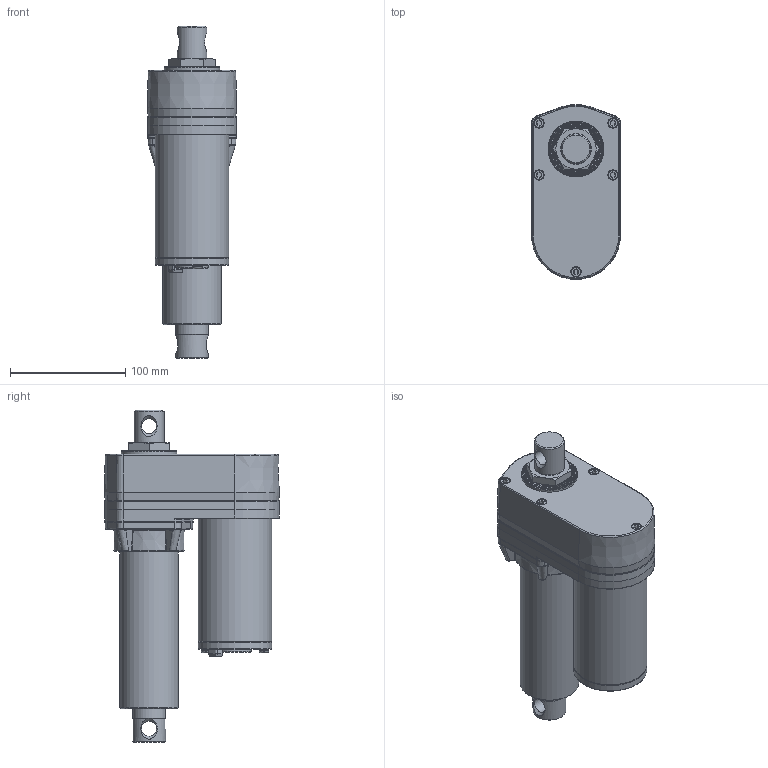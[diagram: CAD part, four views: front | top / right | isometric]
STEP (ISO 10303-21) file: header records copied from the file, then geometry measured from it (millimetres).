
FILE_DESCRIPTION (( 'STEP AP203' ), '1' );
FILE_NAME ('ID10II-A-Standard -102.STEP', '2014-06-09T08:35:23', ( '' ), ( '' ), 'SwSTEP 2.0', 'SolidWorks 2013', '' );
FILE_SCHEMA (( 'CONFIG_CONTROL_DESIGN' ));
Length unit declared in the file: millimetre
Products named in the file (3): ID10II-A-Standard -102-1; ID10II-A-Standard -102-2; ID10II-A-Standard -102
Assembly tree (2 placements, depth 2):
  ID10II-A-Standard -102
    ID10II-A-Standard -102-1
    ID10II-A-Standard -102-2
Bounding box: 77.15 x 151.65 x 287.8 mm (x, y, z)
Volume: 1373480.5 mm3; surface area: 131490.6 mm2
Topology: 2 solids, 2 shells, 824 faces, 2171 edges, 1375 vertices
Faces by surface type: plane 517, cylinder 135, bspline 92, torus 40, cone 40
Full cylindrical faces by diameter (mm): 8.5 x7, 9 x5, 13 x2, 26 x1, 28 x2, 28.1 x1, 28.6 x3, 48.2 x1, 50.8 x1, 63.2 x1, 63.5 x2
Entity records: 29221 total; most frequent: CARTESIAN_POINT 11099, ORIENTED_EDGE 4200, DIRECTION 3194, EDGE_CURVE 2100, VERTEX_POINT 1360, AXIS2_PLACEMENT_3D 1151, EDGE_LOOP 908, LINE 892
